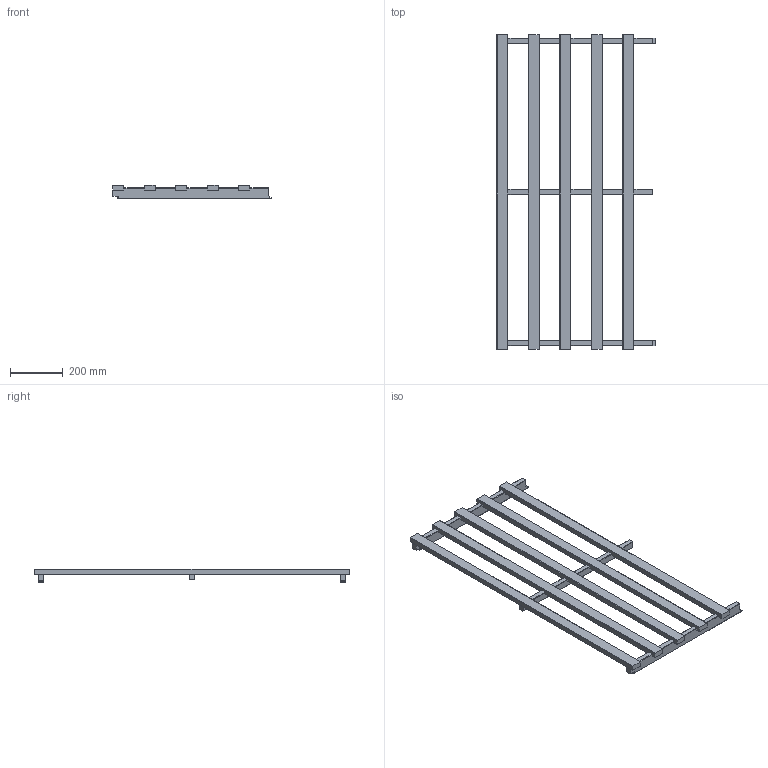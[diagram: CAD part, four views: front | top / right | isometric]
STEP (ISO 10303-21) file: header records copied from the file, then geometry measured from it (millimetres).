
FILE_DESCRIPTION (( 'STEP AP214' ), '1' );
FILE_NAME ('Lao 4.2.7.STEP', '2024-05-31T09:18:02', ( 'UTILISATEUR' ), ( '' ), 'SwSTEP 2.0', 'SolidWorks 2021', '' );
FILE_SCHEMA (( 'AUTOMOTIVE_DESIGN' ));
Length unit declared in the file: millimetre
Products named in the file (4): Lame aboutée 20x42x1199mm_1199; Lao 4.2.7; Contrelatte 20x42_4.2.7; Contrelatte centrale 20x28_4.2.7
Assembly tree (8 placements, depth 2):
  Lao 4.2.7
    Contrelatte 20x42_4.2.7  x2
    Lame aboutée 20x42x1199mm_1199  x5
    Contrelatte centrale 20x28_4.2.7
Bounding box: 603 x 1199 x 52 mm (x, y, z)
Volume: 6200277.2 mm3; surface area: 929106.8 mm2
Topology: 8 solids, 8 shells, 192 faces, 528 edges, 352 vertices
Faces by surface type: plane 178, cylinder 14
Entity records: 3536 total; most frequent: CARTESIAN_POINT 617, ORIENTED_EDGE 588, DIRECTION 544, EDGE_CURVE 294, VECTOR 266, LINE 266, VERTEX_POINT 196, AXIS2_PLACEMENT_3D 139
